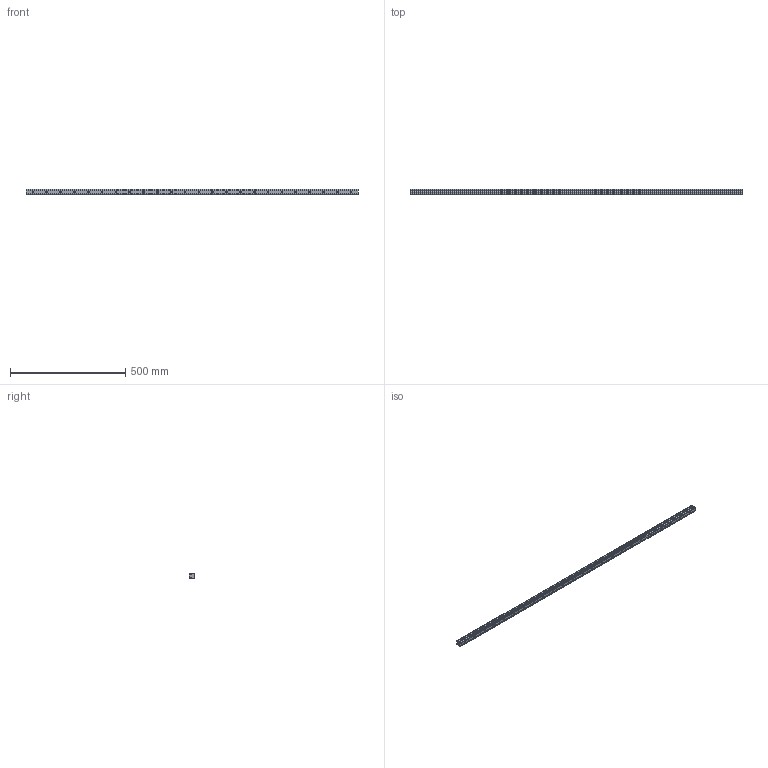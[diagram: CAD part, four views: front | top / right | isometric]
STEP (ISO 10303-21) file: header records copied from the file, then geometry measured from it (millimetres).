
FILE_DESCRIPTION (( 'STEP AP203' ), '1' );
FILE_NAME ('L1018.25R-1440.step', '2023-08-06T10:37:16', ( '' ), ( '' ), 'SwSTEP 2.0', 'SolidWorks 2019', '' );
FILE_SCHEMA (( 'CONFIG_CONTROL_DESIGN' ));
Length unit declared in the file: millimetre
Products named in the file (1): L1018.25R-1440
Bounding box: 1440 x 21.8 x 25 mm (x, y, z)
Volume: 598878.9 mm3; surface area: 143837.1 mm2
Topology: 1 solids, 1 shells, 245 faces, 561 edges, 318 vertices
Faces by surface type: cylinder 99, cone 96, plane 50
Entity records: 6614 total; most frequent: DIRECTION 1251, CARTESIAN_POINT 1077, ORIENTED_EDGE 1026, EDGE_CURVE 513, AXIS2_PLACEMENT_3D 492, VERTEX_POINT 318, EDGE_LOOP 293, LINE 267
